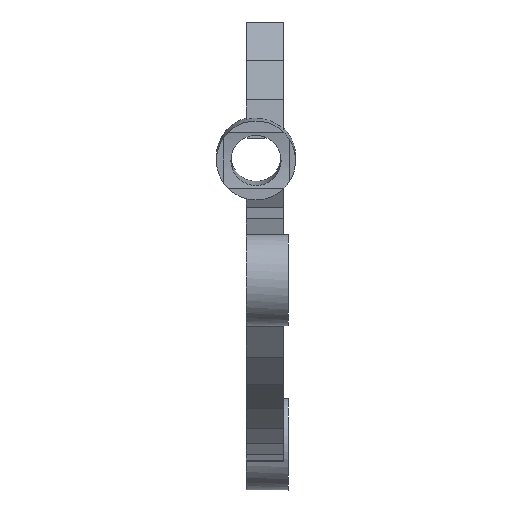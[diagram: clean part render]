
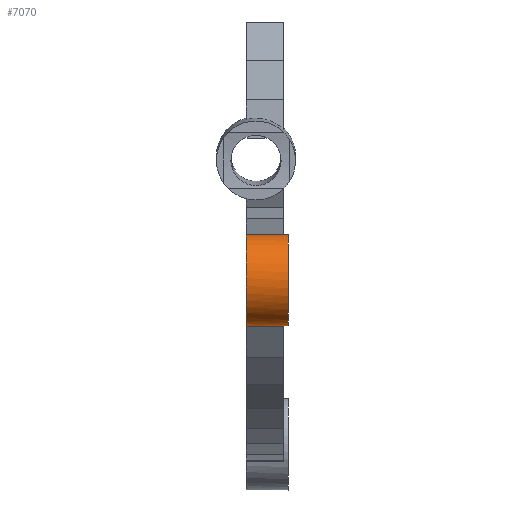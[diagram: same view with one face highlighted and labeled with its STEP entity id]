
A CAD part, front view. The second image highlights one B-rep face of the part: STEP entity #7070.
In plain terms, the highlighted cylindrical face has radius 3.7 mm (diameter 7.4 mm), a full revolution.
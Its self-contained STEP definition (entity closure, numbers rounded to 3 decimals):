
#934 = PLANE('',#935);
#935 = AXIS2_PLACEMENT_3D('',#936,#937,#938);
#936 = CARTESIAN_POINT('',(40.7,-61.959,-68.298));
#937 = DIRECTION('',(1.,0.,0.));
#938 = DIRECTION('',(-0.,0.,1.));
#1010 = PLANE('',#1011);
#1011 = AXIS2_PLACEMENT_3D('',#1012,#1013,#1014);
#1012 = CARTESIAN_POINT('',(43.7,-61.959,-68.298));
#1013 = DIRECTION('',(1.,0.,0.));
#1014 = DIRECTION('',(-0.,0.,1.));
#3452 = VERTEX_POINT('',#3453);
#3453 = CARTESIAN_POINT('',(40.7,-75.061,-62.057));
#3467 = PLANE('',#3468);
#3468 = AXIS2_PLACEMENT_3D('',#3469,#3470,#3471);
#3469 = CARTESIAN_POINT('',(40.7,-75.49,-60.777));
#3470 = DIRECTION('',(-0.,0.948,0.317));
#3471 = DIRECTION('',(0.,0.317,-0.948));
#3479 = EDGE_CURVE('',#3452,#3480,#3482,.T.);
#3480 = VERTEX_POINT('',#3481);
#3481 = CARTESIAN_POINT('',(40.7,-75.269,-62.052));
#3482 = SURFACE_CURVE('',#3483,(#3488,#3495),.PCURVE_S1.);
#3483 = CIRCLE('',#3484,3.7);
#3484 = AXIS2_PLACEMENT_3D('',#3485,#3486,#3487);
#3485 = CARTESIAN_POINT('',(40.7,-75.269,-65.752));
#3486 = DIRECTION('',(1.,0.,0.));
#3487 = DIRECTION('',(-0.,0.,1.));
#3488 = PCURVE('',#934,#3489);
#3489 = DEFINITIONAL_REPRESENTATION('',(#3490),#3494);
#3490 = CIRCLE('',#3491,3.7);
#3491 = AXIS2_PLACEMENT_2D('',#3492,#3493);
#3492 = CARTESIAN_POINT('',(2.547,13.31));
#3493 = DIRECTION('',(1.,0.));
#3494 = ( GEOMETRIC_REPRESENTATION_CONTEXT(2) 
PARAMETRIC_REPRESENTATION_CONTEXT() REPRESENTATION_CONTEXT('2D SPACE',''
  ) );
#3495 = PCURVE('',#3496,#3501);
#3496 = CYLINDRICAL_SURFACE('',#3497,3.7);
#3497 = AXIS2_PLACEMENT_3D('',#3498,#3499,#3500);
#3498 = CARTESIAN_POINT('',(40.7,-75.269,-65.752));
#3499 = DIRECTION('',(1.,0.,0.));
#3500 = DIRECTION('',(-0.,0.,1.));
#3501 = DEFINITIONAL_REPRESENTATION('',(#3502),#3506);
#3502 = LINE('',#3503,#3504);
#3503 = CARTESIAN_POINT('',(0.,0.));
#3504 = VECTOR('',#3505,1.);
#3505 = DIRECTION('',(1.,0.));
#3506 = ( GEOMETRIC_REPRESENTATION_CONTEXT(2) 
PARAMETRIC_REPRESENTATION_CONTEXT() REPRESENTATION_CONTEXT('2D SPACE',''
  ) );
#3508 = EDGE_CURVE('',#3480,#3509,#3511,.T.);
#3509 = VERTEX_POINT('',#3510);
#3510 = CARTESIAN_POINT('',(40.7,-72.305,-67.966));
#3511 = SURFACE_CURVE('',#3512,(#3517,#3524),.PCURVE_S1.);
#3512 = CIRCLE('',#3513,3.7);
#3513 = AXIS2_PLACEMENT_3D('',#3514,#3515,#3516);
#3514 = CARTESIAN_POINT('',(40.7,-75.269,-65.752));
#3515 = DIRECTION('',(1.,0.,0.));
#3516 = DIRECTION('',(-0.,0.,1.));
#3517 = PCURVE('',#934,#3518);
#3518 = DEFINITIONAL_REPRESENTATION('',(#3519),#3523);
#3519 = CIRCLE('',#3520,3.7);
#3520 = AXIS2_PLACEMENT_2D('',#3521,#3522);
#3521 = CARTESIAN_POINT('',(2.547,13.31));
#3522 = DIRECTION('',(1.,0.));
#3523 = ( GEOMETRIC_REPRESENTATION_CONTEXT(2) 
PARAMETRIC_REPRESENTATION_CONTEXT() REPRESENTATION_CONTEXT('2D SPACE',''
  ) );
#3524 = PCURVE('',#3496,#3525);
#3525 = DEFINITIONAL_REPRESENTATION('',(#3526),#3530);
#3526 = LINE('',#3527,#3528);
#3527 = CARTESIAN_POINT('',(0.,0.));
#3528 = VECTOR('',#3529,1.);
#3529 = DIRECTION('',(1.,0.));
#3530 = ( GEOMETRIC_REPRESENTATION_CONTEXT(2) 
PARAMETRIC_REPRESENTATION_CONTEXT() REPRESENTATION_CONTEXT('2D SPACE',''
  ) );
#3548 = PLANE('',#3549);
#3549 = AXIS2_PLACEMENT_3D('',#3550,#3551,#3552);
#3550 = CARTESIAN_POINT('',(40.7,-73.07,-66.766));
#3551 = DIRECTION('',(-0.,0.843,0.537));
#3552 = DIRECTION('',(0.,0.537,-0.843));
#4498 = VERTEX_POINT('',#4499);
#4499 = CARTESIAN_POINT('',(43.7,-75.061,-62.057));
#4520 = EDGE_CURVE('',#4521,#4498,#4523,.T.);
#4521 = VERTEX_POINT('',#4522);
#4522 = CARTESIAN_POINT('',(43.7,-72.305,-67.966));
#4523 = SURFACE_CURVE('',#4524,(#4529,#4536),.PCURVE_S1.);
#4524 = CIRCLE('',#4525,3.7);
#4525 = AXIS2_PLACEMENT_3D('',#4526,#4527,#4528);
#4526 = CARTESIAN_POINT('',(43.7,-75.269,-65.752));
#4527 = DIRECTION('',(1.,0.,0.));
#4528 = DIRECTION('',(-0.,0.,1.));
#4529 = PCURVE('',#1010,#4530);
#4530 = DEFINITIONAL_REPRESENTATION('',(#4531),#4535);
#4531 = CIRCLE('',#4532,3.7);
#4532 = AXIS2_PLACEMENT_2D('',#4533,#4534);
#4533 = CARTESIAN_POINT('',(2.547,13.31));
#4534 = DIRECTION('',(1.,0.));
#4535 = ( GEOMETRIC_REPRESENTATION_CONTEXT(2) 
PARAMETRIC_REPRESENTATION_CONTEXT() REPRESENTATION_CONTEXT('2D SPACE',''
  ) );
#4536 = PCURVE('',#3496,#4537);
#4537 = DEFINITIONAL_REPRESENTATION('',(#4538),#4542);
#4538 = LINE('',#4539,#4540);
#4539 = CARTESIAN_POINT('',(0.,3.));
#4540 = VECTOR('',#4541,1.);
#4541 = DIRECTION('',(1.,0.));
#4542 = ( GEOMETRIC_REPRESENTATION_CONTEXT(2) 
PARAMETRIC_REPRESENTATION_CONTEXT() REPRESENTATION_CONTEXT('2D SPACE',''
  ) );
#7025 = EDGE_CURVE('',#3452,#4498,#7026,.T.);
#7026 = SURFACE_CURVE('',#7027,(#7031,#7037),.PCURVE_S1.);
#7027 = LINE('',#7028,#7029);
#7028 = CARTESIAN_POINT('',(40.7,-75.061,-62.057));
#7029 = VECTOR('',#7030,1.);
#7030 = DIRECTION('',(1.,0.,0.));
#7031 = PCURVE('',#3467,#7032);
#7032 = DEFINITIONAL_REPRESENTATION('',(#7033),#7036);
#7033 = B_SPLINE_CURVE_WITH_KNOTS('',1,(#7034,#7035),.UNSPECIFIED.,.F.,
  .F.,(2,2),(0.,3.3),.PIECEWISE_BEZIER_KNOTS.);
#7034 = CARTESIAN_POINT('',(1.35,0.));
#7035 = CARTESIAN_POINT('',(1.35,-3.3));
#7036 = ( GEOMETRIC_REPRESENTATION_CONTEXT(2) 
PARAMETRIC_REPRESENTATION_CONTEXT() REPRESENTATION_CONTEXT('2D SPACE',''
  ) );
#7037 = PCURVE('',#3496,#7038);
#7038 = DEFINITIONAL_REPRESENTATION('',(#7039),#7042);
#7039 = B_SPLINE_CURVE_WITH_KNOTS('',1,(#7040,#7041),.UNSPECIFIED.,.F.,
  .F.,(2,2),(0.,3.3),.PIECEWISE_BEZIER_KNOTS.);
#7040 = CARTESIAN_POINT('',(6.227,0.));
#7041 = CARTESIAN_POINT('',(6.227,3.3));
#7042 = ( GEOMETRIC_REPRESENTATION_CONTEXT(2) 
PARAMETRIC_REPRESENTATION_CONTEXT() REPRESENTATION_CONTEXT('2D SPACE',''
  ) );
#7070 = ADVANCED_FACE('',(#7071),#3496,.T.);
#7071 = FACE_BOUND('',#7072,.T.);
#7072 = EDGE_LOOP('',(#7073,#7096,#7123,#7124,#7125,#7144,#7145,#7146));
#7073 = ORIENTED_EDGE('',*,*,#7074,.T.);
#7074 = EDGE_CURVE('',#3480,#7075,#7077,.T.);
#7075 = VERTEX_POINT('',#7076);
#7076 = CARTESIAN_POINT('',(44.1,-75.269,-62.052));
#7077 = SEAM_CURVE('',#7078,(#7082,#7089),.PCURVE_S1.);
#7078 = LINE('',#7079,#7080);
#7079 = CARTESIAN_POINT('',(40.7,-75.269,-62.052));
#7080 = VECTOR('',#7081,1.);
#7081 = DIRECTION('',(1.,0.,0.));
#7082 = PCURVE('',#3496,#7083);
#7083 = DEFINITIONAL_REPRESENTATION('',(#7084),#7088);
#7084 = LINE('',#7085,#7086);
#7085 = CARTESIAN_POINT('',(6.283,-0.));
#7086 = VECTOR('',#7087,1.);
#7087 = DIRECTION('',(0.,1.));
#7088 = ( GEOMETRIC_REPRESENTATION_CONTEXT(2) 
PARAMETRIC_REPRESENTATION_CONTEXT() REPRESENTATION_CONTEXT('2D SPACE',''
  ) );
#7089 = PCURVE('',#3496,#7090);
#7090 = DEFINITIONAL_REPRESENTATION('',(#7091),#7095);
#7091 = LINE('',#7092,#7093);
#7092 = CARTESIAN_POINT('',(0.,-0.));
#7093 = VECTOR('',#7094,1.);
#7094 = DIRECTION('',(0.,1.));
#7095 = ( GEOMETRIC_REPRESENTATION_CONTEXT(2) 
PARAMETRIC_REPRESENTATION_CONTEXT() REPRESENTATION_CONTEXT('2D SPACE',''
  ) );
#7096 = ORIENTED_EDGE('',*,*,#7097,.F.);
#7097 = EDGE_CURVE('',#7075,#7075,#7098,.T.);
#7098 = SURFACE_CURVE('',#7099,(#7104,#7111),.PCURVE_S1.);
#7099 = CIRCLE('',#7100,3.7);
#7100 = AXIS2_PLACEMENT_3D('',#7101,#7102,#7103);
#7101 = CARTESIAN_POINT('',(44.1,-75.269,-65.752));
#7102 = DIRECTION('',(1.,0.,0.));
#7103 = DIRECTION('',(-0.,0.,1.));
#7104 = PCURVE('',#3496,#7105);
#7105 = DEFINITIONAL_REPRESENTATION('',(#7106),#7110);
#7106 = LINE('',#7107,#7108);
#7107 = CARTESIAN_POINT('',(0.,3.4));
#7108 = VECTOR('',#7109,1.);
#7109 = DIRECTION('',(1.,0.));
#7110 = ( GEOMETRIC_REPRESENTATION_CONTEXT(2) 
PARAMETRIC_REPRESENTATION_CONTEXT() REPRESENTATION_CONTEXT('2D SPACE',''
  ) );
#7111 = PCURVE('',#7112,#7117);
#7112 = PLANE('',#7113);
#7113 = AXIS2_PLACEMENT_3D('',#7114,#7115,#7116);
#7114 = CARTESIAN_POINT('',(44.1,-75.269,-65.752));
#7115 = DIRECTION('',(1.,0.,0.));
#7116 = DIRECTION('',(-0.,0.,1.));
#7117 = DEFINITIONAL_REPRESENTATION('',(#7118),#7122);
#7118 = CIRCLE('',#7119,3.7);
#7119 = AXIS2_PLACEMENT_2D('',#7120,#7121);
#7120 = CARTESIAN_POINT('',(0.,0.));
#7121 = DIRECTION('',(1.,0.));
#7122 = ( GEOMETRIC_REPRESENTATION_CONTEXT(2) 
PARAMETRIC_REPRESENTATION_CONTEXT() REPRESENTATION_CONTEXT('2D SPACE',''
  ) );
#7123 = ORIENTED_EDGE('',*,*,#7074,.F.);
#7124 = ORIENTED_EDGE('',*,*,#3508,.T.);
#7125 = ORIENTED_EDGE('',*,*,#7126,.T.);
#7126 = EDGE_CURVE('',#3509,#4521,#7127,.T.);
#7127 = SURFACE_CURVE('',#7128,(#7132,#7138),.PCURVE_S1.);
#7128 = LINE('',#7129,#7130);
#7129 = CARTESIAN_POINT('',(40.7,-72.305,-67.966));
#7130 = VECTOR('',#7131,1.);
#7131 = DIRECTION('',(1.,0.,0.));
#7132 = PCURVE('',#3496,#7133);
#7133 = DEFINITIONAL_REPRESENTATION('',(#7134),#7137);
#7134 = B_SPLINE_CURVE_WITH_KNOTS('',1,(#7135,#7136),.UNSPECIFIED.,.F.,
  .F.,(2,2),(0.,3.3),.PIECEWISE_BEZIER_KNOTS.);
#7135 = CARTESIAN_POINT('',(4.071,0.));
#7136 = CARTESIAN_POINT('',(4.071,3.3));
#7137 = ( GEOMETRIC_REPRESENTATION_CONTEXT(2) 
PARAMETRIC_REPRESENTATION_CONTEXT() REPRESENTATION_CONTEXT('2D SPACE',''
  ) );
#7138 = PCURVE('',#3548,#7139);
#7139 = DEFINITIONAL_REPRESENTATION('',(#7140),#7143);
#7140 = B_SPLINE_CURVE_WITH_KNOTS('',1,(#7141,#7142),.UNSPECIFIED.,.F.,
  .F.,(2,2),(0.,3.3),.PIECEWISE_BEZIER_KNOTS.);
#7141 = CARTESIAN_POINT('',(1.423,0.));
#7142 = CARTESIAN_POINT('',(1.423,-3.3));
#7143 = ( GEOMETRIC_REPRESENTATION_CONTEXT(2) 
PARAMETRIC_REPRESENTATION_CONTEXT() REPRESENTATION_CONTEXT('2D SPACE',''
  ) );
#7144 = ORIENTED_EDGE('',*,*,#4520,.T.);
#7145 = ORIENTED_EDGE('',*,*,#7025,.F.);
#7146 = ORIENTED_EDGE('',*,*,#3479,.T.);
